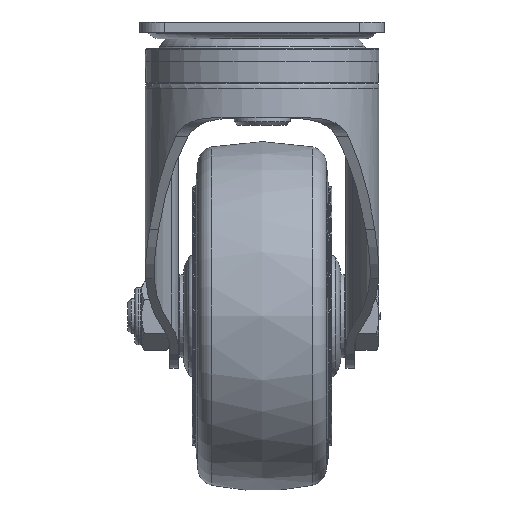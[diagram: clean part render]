
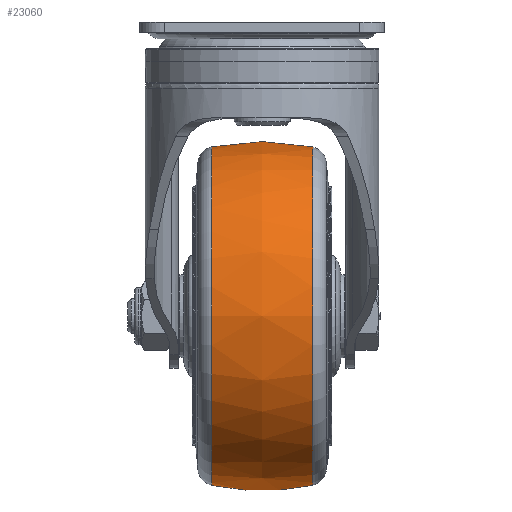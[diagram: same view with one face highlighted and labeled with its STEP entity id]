
A CAD part, left-side view. The second image highlights one B-rep face of the part: STEP entity #23060.
In plain terms, the highlighted free-form (B-spline) face has degree [2, 2] with [3, 9] control points.
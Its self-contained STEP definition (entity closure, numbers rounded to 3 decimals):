
#15=(
BOUNDED_SURFACE()
B_SPLINE_SURFACE(2,2,((#44158,#44159,#44160,#44161,#44162,#44163,#44164,
#44165,#44166),(#44167,#44168,#44169,#44170,#44171,#44172,#44173,#44174,
#44175),(#44176,#44177,#44178,#44179,#44180,#44181,#44182,#44183,#44184)),
 .UNSPECIFIED.,.F.,.T.,.F.)
B_SPLINE_SURFACE_WITH_KNOTS((3,3),(3,2,2,2,3),(-0.208,0.208),
(-3.142,-1.571,0.,1.571,3.142),
 .UNSPECIFIED.)
GEOMETRIC_REPRESENTATION_ITEM()
RATIONAL_B_SPLINE_SURFACE(((1.,0.707,1.,0.707,1.,
0.707,1.,0.707,1.),(0.978,0.692,
0.978,0.692,0.978,0.692,
0.978,0.692,0.978),(1.,0.707,
1.,0.707,1.,0.707,1.,0.707,1.)))
REPRESENTATION_ITEM('')
SURFACE()
);
#6798=FACE_OUTER_BOUND('',#8206,.T.);
#8206=EDGE_LOOP('',(#21112,#21113,#21114,#21115));
#8535=CIRCLE('',#24213,48.492);
#8554=CIRCLE('',#24241,48.492);
#8556=CIRCLE('',#24243,70.);
#10829=VERTEX_POINT('',#44108);
#10844=VERTEX_POINT('',#44155);
#14250=EDGE_CURVE('',#10829,#10829,#8535,.T.);
#14272=EDGE_CURVE('',#10844,#10844,#8554,.T.);
#14274=EDGE_CURVE('',#10829,#10844,#8556,.T.);
#21112=ORIENTED_EDGE('',*,*,#14250,.F.);
#21113=ORIENTED_EDGE('',*,*,#14274,.T.);
#21114=ORIENTED_EDGE('',*,*,#14272,.T.);
#21115=ORIENTED_EDGE('',*,*,#14274,.F.);
#23060=ADVANCED_FACE('',(#6798),#15,.F.);
#24213=AXIS2_PLACEMENT_3D('',#44110,#28126,#28127);
#24241=AXIS2_PLACEMENT_3D('',#44156,#28185,#28186);
#24243=AXIS2_PLACEMENT_3D('',#44185,#28189,#28190);
#28126=DIRECTION('center_axis',(0.,-1.,0.));
#28127=DIRECTION('ref_axis',(0.,0.,
1.));
#28185=DIRECTION('center_axis',(0.,-1.,0.));
#28186=DIRECTION('ref_axis',(0.,0.,
1.));
#28189=DIRECTION('center_axis',(1.,0.,0.));
#28190=DIRECTION('ref_axis',(0.,0.,
-1.));
#44108=CARTESIAN_POINT('',(36.,-14.451,-132.292));
#44110=CARTESIAN_POINT('Origin',(36.,-14.451,-83.8));
#44155=CARTESIAN_POINT('',(36.,14.451,-132.292));
#44156=CARTESIAN_POINT('Origin',(36.,14.451,-83.8));
#44158=CARTESIAN_POINT('Ctrl Pts',(36.,14.451,-132.292));
#44159=CARTESIAN_POINT('Ctrl Pts',(84.492,14.451,-132.292));
#44160=CARTESIAN_POINT('Ctrl Pts',(84.492,14.451,-83.8));
#44161=CARTESIAN_POINT('Ctrl Pts',(84.492,14.451,-35.308));
#44162=CARTESIAN_POINT('Ctrl Pts',(36.,14.451,-35.308));
#44163=CARTESIAN_POINT('Ctrl Pts',(-12.492,14.451,-35.308));
#44164=CARTESIAN_POINT('Ctrl Pts',(-12.492,14.451,-83.8));
#44165=CARTESIAN_POINT('Ctrl Pts',(-12.492,14.451,-132.292));
#44166=CARTESIAN_POINT('Ctrl Pts',(36.,14.451,-132.292));
#44167=CARTESIAN_POINT('Ctrl Pts',(36.,0.,
-135.341));
#44168=CARTESIAN_POINT('Ctrl Pts',(87.541,0.,
-135.341));
#44169=CARTESIAN_POINT('Ctrl Pts',(87.541,0.,
-83.8));
#44170=CARTESIAN_POINT('Ctrl Pts',(87.541,0.,
-32.259));
#44171=CARTESIAN_POINT('Ctrl Pts',(36.,0.,
-32.259));
#44172=CARTESIAN_POINT('Ctrl Pts',(-15.541,0.,
-32.259));
#44173=CARTESIAN_POINT('Ctrl Pts',(-15.541,0.,
-83.8));
#44174=CARTESIAN_POINT('Ctrl Pts',(-15.541,0.,
-135.341));
#44175=CARTESIAN_POINT('Ctrl Pts',(36.,0.,
-135.341));
#44176=CARTESIAN_POINT('Ctrl Pts',(36.,-14.451,-132.292));
#44177=CARTESIAN_POINT('Ctrl Pts',(84.492,-14.451,-132.292));
#44178=CARTESIAN_POINT('Ctrl Pts',(84.492,-14.451,-83.8));
#44179=CARTESIAN_POINT('Ctrl Pts',(84.492,-14.451,-35.308));
#44180=CARTESIAN_POINT('Ctrl Pts',(36.,-14.451,-35.308));
#44181=CARTESIAN_POINT('Ctrl Pts',(-12.492,-14.451,
-35.308));
#44182=CARTESIAN_POINT('Ctrl Pts',(-12.492,-14.451,
-83.8));
#44183=CARTESIAN_POINT('Ctrl Pts',(-12.492,-14.451,
-132.292));
#44184=CARTESIAN_POINT('Ctrl Pts',(36.,-14.451,-132.292));
#44185=CARTESIAN_POINT('Origin',(36.,0.,
-63.8));
